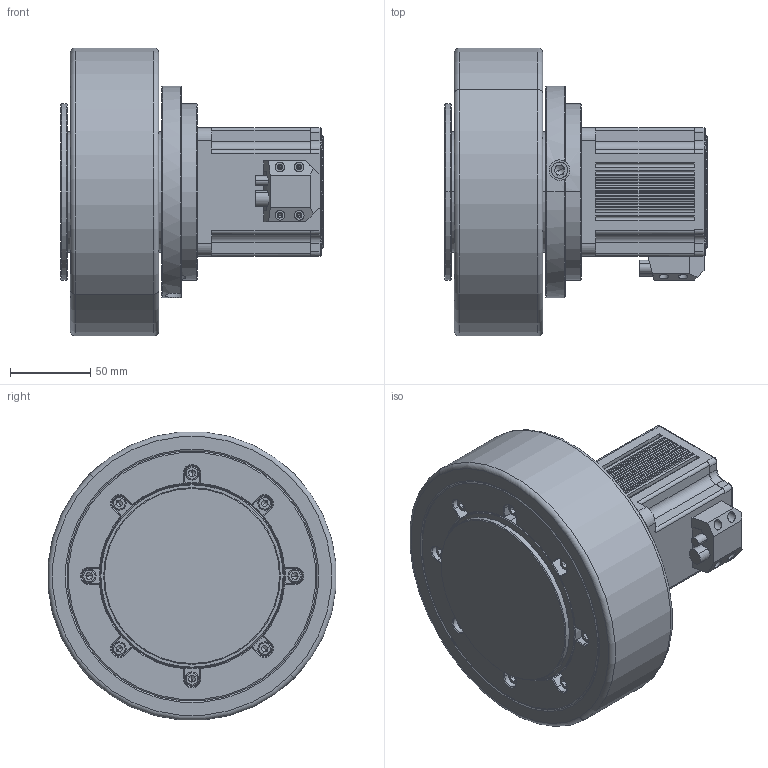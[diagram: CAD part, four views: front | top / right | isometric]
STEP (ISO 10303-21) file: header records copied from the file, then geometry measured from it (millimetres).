
FILE_DESCRIPTION((''),'2;1');
FILE_NAME('AEQ-115N-016-10-19-2-H55-W180_ASM','2025-03-07T09:28:22',('ms15079'),(''),'CREO PARAMETRIC BY PTC INC, 2018100','CREO PARAMETRIC BY PTC INC, 2018100','');
FILE_SCHEMA(('CONFIG_CONTROL_DESIGN'));
Length unit declared in the file: millimetre
Products named in the file (18): HEXAGON_SOCKET_HEAD_CAP_SC-5242; HEXAGON_SOCKET_HEAD_CAP_S-11438; SINGLE_COIL_LOCK_WASHERS_LIGH_2; HEX_SOCKET_SET_SCREWS_WITH_FL_2; AEQ-115-H55-W180; AEQ-115N-L2-19-1_X2_FF08_X0_1_2; 090-19_X2_8F7495017D275957_X0_2; AEQ-115N-016-19-1-H55-W180_ASM; 80000_11_1_1; 00_1-15708_1_1; 00_1-17282_1_1; 000_ASM_1_ASM_1_1_ASM; 60_1_1_1; 100_1_1_1; 800001_ASM_9_ASM_1_1_ASM; MGR-90-32-075-30-001__ASM_1_1_ASM; ASM0005_ASM; AEQ-115N-016-10-19-2-H55-W180_ASM
Assembly tree (32 placements, depth 6):
  AEQ-115N-016-10-19-2-H55-W180_ASM
    AEQ-115N-016-19-1-H55-W180_ASM
      HEXAGON_SOCKET_HEAD_CAP_SC-5242  x8
      HEXAGON_SOCKET_HEAD_CAP_S-11438
      SINGLE_COIL_LOCK_WASHERS_LIGH_2  x8
      HEX_SOCKET_SET_SCREWS_WITH_FL_2  x2
      AEQ-115-H55-W180
      AEQ-115N-L2-19-1_X2_FF08_X0_1_2
      090-19_X2_8F7495017D275957_X0_2
    ASM0005_ASM
      MGR-90-32-075-30-001__ASM_1_1_ASM
        800001_ASM_9_ASM_1_1_ASM
          80000_11_1_1
          000_ASM_1_ASM_1_1_ASM
            00_1-15708_1_1
            00_1-17282_1_1
          60_1_1_1
          100_1_1_1
Bounding box: 163.5 x 179.31 x 179.31 mm (x, y, z)
Volume: 2109049.8 mm3; surface area: 256283.2 mm2
Topology: 27 solids, 31 shells, 1293 faces, 3214 edges, 2000 vertices
Faces by surface type: plane 621, cylinder 408, cone 218, torus 38, bspline 8
Entity records: 32128 total; most frequent: CARTESIAN_POINT 6337, DIRECTION 5644, ORIENTED_EDGE 5122, EDGE_CURVE 2569, AXIS2_PLACEMENT_3D 2113, VERTEX_POINT 1628, VECTOR 1418, LINE 1418
